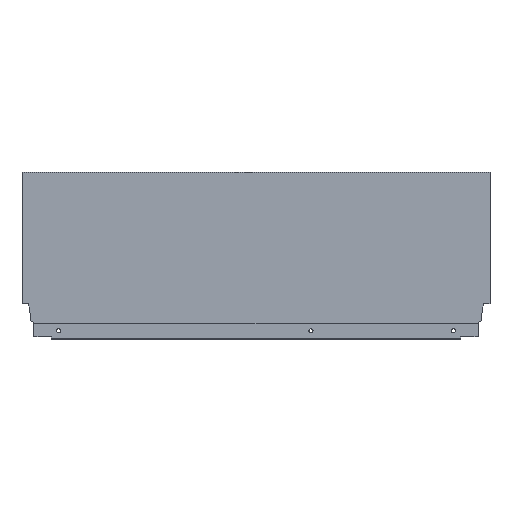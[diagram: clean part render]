
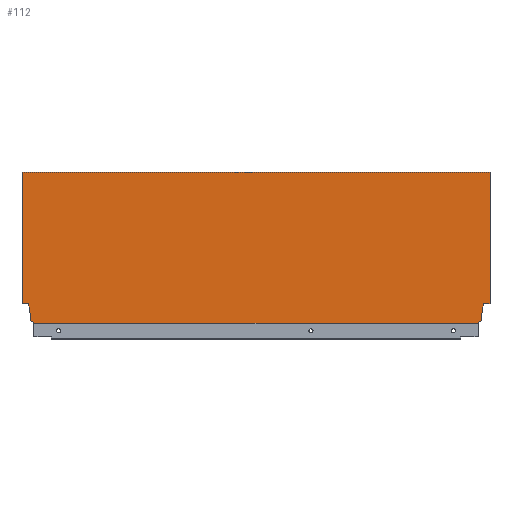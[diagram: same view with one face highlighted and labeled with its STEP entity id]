
A CAD part, top view. The second image highlights one B-rep face of the part: STEP entity #112.
In plain terms, the highlighted planar face has unit normal (0, 0, 1).
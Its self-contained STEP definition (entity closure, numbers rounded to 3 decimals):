
#59 = EDGE_CURVE ( 'NONE', #868, #889, #1373, .T. ) ;
#112 = ADVANCED_FACE ( 'NONE', ( #1300 ), #735, .T. ) ;
#167 = EDGE_CURVE ( 'NONE', #964, #914, #1214, .T. ) ;
#170 = EDGE_CURVE ( 'NONE', #879, #1163, #1208, .T. ) ;
#172 = EDGE_CURVE ( 'NONE', #1163, #875, #1204, .T. ) ;
#173 = EDGE_CURVE ( 'NONE', #914, #879, #1202, .T. ) ;
#174 = EDGE_CURVE ( 'NONE', #875, #940, #1200, .T. ) ;
#175 = EDGE_CURVE ( 'NONE', #940, #866, #1198, .T. ) ;
#176 = EDGE_CURVE ( 'NONE', #964, #874, #1196, .T. ) ;
#177 = EDGE_CURVE ( 'NONE', #866, #855, #1219, .T. ) ;
#178 = EDGE_CURVE ( 'NONE', #889, #941, #1192, .T. ) ;
#179 = EDGE_CURVE ( 'NONE', #941, #860, #1190, .T. ) ;
#180 = EDGE_CURVE ( 'NONE', #860, #862, #1188, .T. ) ;
#181 = EDGE_CURVE ( 'NONE', #862, #874, #1186, .T. ) ;
#182 = EDGE_CURVE ( 'NONE', #868, #855, #1184, .T. ) ;
#238 = AXIS2_PLACEMENT_3D ( 'NONE', #848, #736, #737 ) ;
#388 = ORIENTED_EDGE ( 'NONE', *, *, #167, .F. ) ;
#398 = ORIENTED_EDGE ( 'NONE', *, *, #170, .F. ) ;
#399 = ORIENTED_EDGE ( 'NONE', *, *, #173, .F. ) ;
#407 = ORIENTED_EDGE ( 'NONE', *, *, #172, .F. ) ;
#435 = ORIENTED_EDGE ( 'NONE', *, *, #178, .F. ) ;
#448 = ORIENTED_EDGE ( 'NONE', *, *, #175, .F. ) ;
#449 = ORIENTED_EDGE ( 'NONE', *, *, #174, .F. ) ;
#450 = ORIENTED_EDGE ( 'NONE', *, *, #177, .F. ) ;
#451 = ORIENTED_EDGE ( 'NONE', *, *, #181, .F. ) ;
#452 = ORIENTED_EDGE ( 'NONE', *, *, #180, .F. ) ;
#454 = ORIENTED_EDGE ( 'NONE', *, *, #59, .F. ) ;
#455 = ORIENTED_EDGE ( 'NONE', *, *, #182, .T. ) ;
#478 = ORIENTED_EDGE ( 'NONE', *, *, #176, .T. ) ;
#479 = ORIENTED_EDGE ( 'NONE', *, *, #179, .F. ) ;
#539 = CARTESIAN_POINT ( 'NONE',  ( -13.004, 1.146, 7.5 ) ) ;
#540 = DIRECTION ( 'NONE',  ( 1., 0., 0. ) ) ;
#541 = CARTESIAN_POINT ( 'NONE',  ( -511., 164.7, 7.5 ) ) ;
#568 = CARTESIAN_POINT ( 'NONE',  ( 0., 21.2, 7.5 ) ) ;
#571 = CARTESIAN_POINT ( 'NONE',  ( -7.06, 21.2, 7.5 ) ) ;
#572 = DIRECTION ( 'NONE',  ( -1., 0., 0. ) ) ;
#574 = DIRECTION ( 'NONE',  ( -0.174, -0.985, 0. ) ) ;
#589 = DIRECTION ( 'NONE',  ( 1., 0., 0. ) ) ;
#591 = DIRECTION ( 'NONE',  ( -1., 0., 0. ) ) ;
#592 = CARTESIAN_POINT ( 'NONE',  ( -511., 0., 7.5 ) ) ;
#593 = CARTESIAN_POINT ( 'NONE',  ( -503.94, 21.2, 7.5 ) ) ;
#594 = DIRECTION ( 'NONE',  ( -0.174, 0.985, 0. ) ) ;
#595 = CARTESIAN_POINT ( 'NONE',  ( -516., 21.2, 7.5 ) ) ;
#596 = CARTESIAN_POINT ( 'NONE',  ( -502.1, 10.765, 7.5 ) ) ;
#597 = DIRECTION ( 'NONE',  ( 0., 1., 0. ) ) ;
#598 = CARTESIAN_POINT ( 'NONE',  ( -502.1, 2.64, 7.5 ) ) ;
#599 = DIRECTION ( 'NONE',  ( -0.94, 0.342, 0. ) ) ;
#600 = DIRECTION ( 'NONE',  ( 0., -1., 0. ) ) ;
#602 = CARTESIAN_POINT ( 'NONE',  ( -511., 0., 7.5 ) ) ;
#603 = DIRECTION ( 'NONE',  ( 0., -1., 0. ) ) ;
#605 = DIRECTION ( 'NONE',  ( 0., -1., 0. ) ) ;
#606 = CARTESIAN_POINT ( 'NONE',  ( -8.9, 2.64, 7.5 ) ) ;
#607 = DIRECTION ( 'NONE',  ( -0.94, -0.342, 0. ) ) ;
#608 = CARTESIAN_POINT ( 'NONE',  ( 0., 0., 7.5 ) ) ;
#609 = DIRECTION ( 'NONE',  ( 0., -1., 0. ) ) ;
#610 = CARTESIAN_POINT ( 'NONE',  ( -8.9, 10.765, 7.5 ) ) ;
#618 = CARTESIAN_POINT ( 'NONE',  ( -13.004, 0., 7.5 ) ) ;
#621 = CARTESIAN_POINT ( 'NONE',  ( -497.996, 0., 7.5 ) ) ;
#626 = CARTESIAN_POINT ( 'NONE',  ( -13.004, 1.146, 7.5 ) ) ;
#627 = CARTESIAN_POINT ( 'NONE',  ( -502.1, 10.765, 7.5 ) ) ;
#629 = CARTESIAN_POINT ( 'NONE',  ( -503.94, 21.2, 7.5 ) ) ;
#634 = CARTESIAN_POINT ( 'NONE',  ( -511., 21.2, 7.5 ) ) ;
#640 = CARTESIAN_POINT ( 'NONE',  ( 0., 21.2, 7.5 ) ) ;
#641 = CARTESIAN_POINT ( 'NONE',  ( -8.9, 10.765, 7.5 ) ) ;
#649 = CARTESIAN_POINT ( 'NONE',  ( 0., 164.7, 7.5 ) ) ;
#671 = CARTESIAN_POINT ( 'NONE',  ( -511., 164.7, 7.5 ) ) ;
#678 = CARTESIAN_POINT ( 'NONE',  ( -8.9, 2.64, 7.5 ) ) ;
#679 = CARTESIAN_POINT ( 'NONE',  ( -502.1, 2.64, 7.5 ) ) ;
#693 = CARTESIAN_POINT ( 'NONE',  ( -7.06, 21.2, 7.5 ) ) ;
#707 = CARTESIAN_POINT ( 'NONE',  ( -497.996, 1.146, 7.5 ) ) ;
#735 = PLANE ( 'NONE',  #238 ) ;
#736 = DIRECTION ( 'NONE',  ( 0., 0., 1. ) ) ;
#737 = DIRECTION ( 'NONE',  ( 1., 0., 0. ) ) ;
#848 = CARTESIAN_POINT ( 'NONE',  ( -511., 0., 7.5 ) ) ;
#855 = VERTEX_POINT ( 'NONE', #618 ) ;
#860 = VERTEX_POINT ( 'NONE', #627 ) ;
#862 = VERTEX_POINT ( 'NONE', #629 ) ;
#866 = VERTEX_POINT ( 'NONE', #626 ) ;
#868 = VERTEX_POINT ( 'NONE', #621 ) ;
#874 = VERTEX_POINT ( 'NONE', #634 ) ;
#875 = VERTEX_POINT ( 'NONE', #641 ) ;
#879 = VERTEX_POINT ( 'NONE', #640 ) ;
#889 = VERTEX_POINT ( 'NONE', #707 ) ;
#914 = VERTEX_POINT ( 'NONE', #649 ) ;
#931 = DIRECTION ( 'NONE',  ( 0., 1., 0. ) ) ;
#932 = CARTESIAN_POINT ( 'NONE',  ( -497.996, 1.146, 7.5 ) ) ;
#940 = VERTEX_POINT ( 'NONE', #678 ) ;
#941 = VERTEX_POINT ( 'NONE', #679 ) ;
#964 = VERTEX_POINT ( 'NONE', #671 ) ;
#1163 = VERTEX_POINT ( 'NONE', #693 ) ;
#1183 = VECTOR ( 'NONE', #589, 1000. ) ;
#1184 = LINE ( 'NONE', #592, #1183 ) ;
#1185 = VECTOR ( 'NONE', #591, 1000. ) ;
#1186 = LINE ( 'NONE', #595, #1185 ) ;
#1187 = VECTOR ( 'NONE', #594, 1000. ) ;
#1188 = LINE ( 'NONE', #593, #1187 ) ;
#1189 = VECTOR ( 'NONE', #597, 1000. ) ;
#1190 = LINE ( 'NONE', #596, #1189 ) ;
#1191 = VECTOR ( 'NONE', #599, 1000. ) ;
#1192 = LINE ( 'NONE', #598, #1191 ) ;
#1194 = VECTOR ( 'NONE', #600, 1000. ) ;
#1195 = VECTOR ( 'NONE', #603, 1000. ) ;
#1196 = LINE ( 'NONE', #602, #1195 ) ;
#1197 = VECTOR ( 'NONE', #607, 1000. ) ;
#1198 = LINE ( 'NONE', #606, #1197 ) ;
#1199 = VECTOR ( 'NONE', #605, 1000. ) ;
#1200 = LINE ( 'NONE', #610, #1199 ) ;
#1201 = VECTOR ( 'NONE', #609, 1000. ) ;
#1202 = LINE ( 'NONE', #608, #1201 ) ;
#1203 = VECTOR ( 'NONE', #574, 1000. ) ;
#1204 = LINE ( 'NONE', #571, #1203 ) ;
#1207 = VECTOR ( 'NONE', #572, 1000. ) ;
#1208 = LINE ( 'NONE', #568, #1207 ) ;
#1213 = VECTOR ( 'NONE', #540, 1000. ) ;
#1214 = LINE ( 'NONE', #541, #1213 ) ;
#1219 = LINE ( 'NONE', #539, #1194 ) ;
#1300 = FACE_OUTER_BOUND ( 'NONE', #1538, .T. ) ;
#1373 = LINE ( 'NONE', #932, #1376 ) ;
#1376 = VECTOR ( 'NONE', #931, 1000. ) ;
#1538 = EDGE_LOOP ( 'NONE', ( #478, #451, #452, #479, #435, #454, #455, #450, #448, #449, #407, #398, #399, #388 ) ) ;
